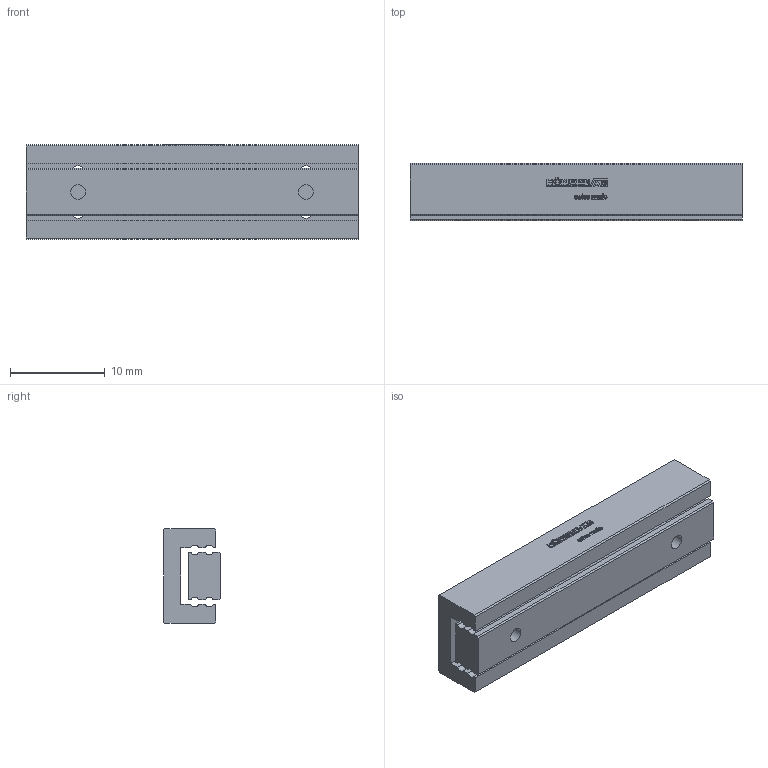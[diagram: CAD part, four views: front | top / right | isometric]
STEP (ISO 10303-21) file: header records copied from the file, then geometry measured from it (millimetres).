
FILE_DESCRIPTION(/* description */ ('STEP AP214'),/* implementation_level */ '2;1');
FILE_NAME(/* name */ 'MSK 5-35.25(0)',/* time_stamp */ '2025-04-16T16:49:21+02:00',/* author */ ('License CC BY-ND 4.0'),/* organization */ ('CADENAS'),/* preprocessor_version */ 'ST-DEVELOPER v19.3',/* originating_system */ 'PARTsolutions',/* authorisation */ ' ');
FILE_SCHEMA (('AUTOMOTIVE_DESIGN {1 0 10303 214 3 1 1}'));
Length unit declared in the file: millimetre
Products named in the file (3): MSK 5-35.25(0); MSK 5-35.25_1; MSK 5-35.25_2
Assembly tree (2 placements, depth 2):
  MSK 5-35.25(0)
    MSK 5-35.25_1
    MSK 5-35.25_2
Bounding box: 35 x 6 x 10 mm (x, y, z)
Volume: 1669.4 mm3; surface area: 2117.7 mm2
Topology: 2 solids, 2 shells, 513 faces, 1442 edges, 960 vertices
Faces by surface type: cylinder 306, plane 203, cone 4
Full cylindrical faces by diameter (mm): 1.567 x6
Entity records: 16849 total; most frequent: DIRECTION 3080, CARTESIAN_POINT 2908, ORIENTED_EDGE 2864, EDGE_CURVE 1432, AXIS2_PLACEMENT_3D 1132, VERTEX_POINT 960, LINE 816, VECTOR 816
